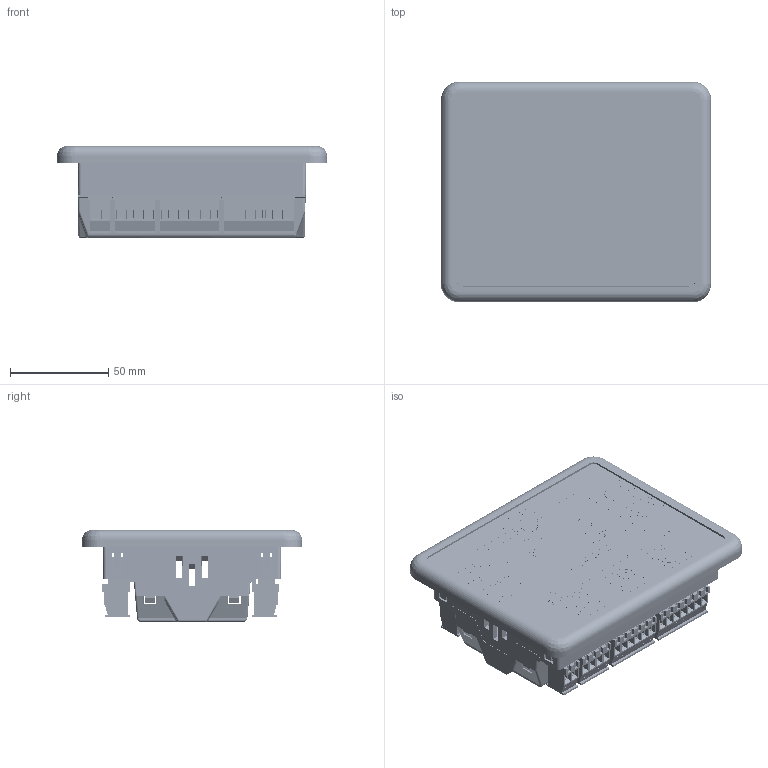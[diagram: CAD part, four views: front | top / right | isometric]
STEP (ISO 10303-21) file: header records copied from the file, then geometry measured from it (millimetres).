
FILE_DESCRIPTION(/* description */ ('CAx-IF Rec.Pracs.---Representation and Presentation of Product Manufacturing Information (PMI)---4.0---2014-10-13','CAx-IF Rec.Pracs.---3D Tessellated Geometry---0.4---2014-09-14','2;1'),/* implementation_level */ '2;1');
FILE_NAME(/* name */ 'K30i',/* time_stamp */ '2026-01-28T14:01:00-03:00',/* author */ ('Rodrigo Xavier'),/* organization */ ('KVA'),/* preprocessor_version */ 'ST-DEVELOPER v20',/* originating_system */ 'Solid Edge',/* authorisation */ 'Unknown');
FILE_SCHEMA (('AP242_MANAGED_MODEL_BASED_3D_ENGINEERING_MIM_LF { 1 0 10303 442 1 1 4 }'));
Products named in the file (34): K30i; Gabinete_Frontal K30i; Gabinete_Traseiro K30i; Adesivo Frontal K30i; K30i-R0-Bornes; Board; B7; V06; mstbva_2.5-6-g-5.08; B6; 7vias; mstbva_2.5-7-g-5.08; B9; V02; B3; 4Vias762; gmstbva_2.5_hc-4-g-7.62; B4; B2; B1; B5; V04; mstbva_2.5-4-g-5.08; B8; borne 2vias(18e19); borne 4vias; borne 7vias; borne 6vias; borne 4vias(espaçado)(2023); borne 4vias(espaçado); borne 4vias(3235); borne 2vias(3031); borne 2vias(2425); USB-K30i
Assembly tree (37 placements, depth 5):
  K30i
    Gabinete_Frontal K30i
    Gabinete_Traseiro K30i
    Adesivo Frontal K30i
    K30i-R0-Bornes
      Board
      B7
        V06
          mstbva_2.5-6-g-5.08
      B6
        7vias
          mstbva_2.5-7-g-5.08
      B9
        V02
      B3
        4Vias762
          gmstbva_2.5_hc-4-g-7.62
      B4
        V02
      B2
        V02
      B1
        4Vias762
          gmstbva_2.5_hc-4-g-7.62
      B5
        V04
          mstbva_2.5-4-g-5.08
      B8
        V04
          mstbva_2.5-4-g-5.08
      borne 2vias(18e19)
      borne 4vias
      borne 7vias
      borne 6vias
      borne 4vias(espaçado)(2023)
      borne 4vias(espaçado)
      borne 4vias(3235)
      borne 2vias(3031)
      borne 2vias(2425)
    USB-K30i
Bounding box: 137.6 x 112.2 x 46.85 mm (x, y, z)
Volume: 150459.2 mm3; surface area: 169212.2 mm2
Topology: 31 solids, 31 shells, 9771 faces, 24475 edges, 15870 vertices
Faces by surface type: plane 7675, cylinder 1124, bspline 692, cone 139, sphere 124, torus 17
Full cylindrical faces by diameter (mm): 0.309 x1, 0.324 x1, 0.327 x1, 0.338 x1, 0.359 x4, 1 x27, 1.5 x35, 1.524 x8, 1.794 x1, 2.48 x1, 2.5 x34, 3 x8, 3.7 x8, 4 x35, 4.923 x1, 12 x1, 12.438 x3, 12.466 x4, 13.244 x3, 13.293 x4, 16 x1
Entity records: 344266 total; most frequent: CARTESIAN_POINT 86648, ORIENTED_EDGE 42624, DIRECTION 37876, EDGE_CURVE 21312, LINE 17150, VECTOR 17150, VERTEX_POINT 14095, AXIS2_PLACEMENT_3D 10363
